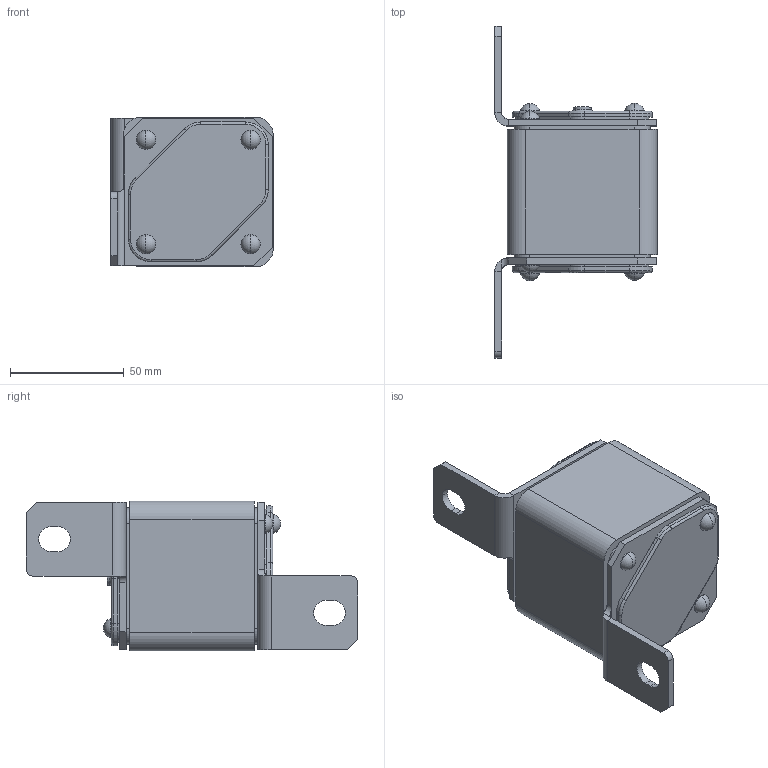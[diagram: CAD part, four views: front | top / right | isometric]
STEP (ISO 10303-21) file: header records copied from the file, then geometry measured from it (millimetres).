
FILE_DESCRIPTION (( 'STEP AP214' ), '1' );
FILE_NAME ('砎槼隰譇膻蠈錪 珫57-37370-XXXA-XXXX-忡曖.STEP', '2023-05-11T11:51:50', ( '' ), ( '' ), 'SwSTEP 2.0', 'SolidWorks 2018', '' );
FILE_SCHEMA (( 'AUTOMOTIVE_DESIGN' ));
Length unit declared in the file: millimetre
Products named in the file (1): 砎槼隰譇膻蠈錪 珫57-37370-XXXA-XXXX-忡曖
Bounding box: 71.5 x 146 x 66 mm (x, y, z)
Volume: 291255.1 mm3; surface area: 44650.6 mm2
Topology: 1 solids, 15 shells, 378 faces, 878 edges, 552 vertices
Faces by surface type: plane 146, cylinder 144, torus 40, cone 32, sphere 16
Entity records: 15118 total; most frequent: DIRECTION 2084, CARTESIAN_POINT 1893, ORIENTED_EDGE 1756, EDGE_CURVE 878, AXIS2_PLACEMENT_3D 831, VERTEX_POINT 552, CIRCLE 452, LINE 422
